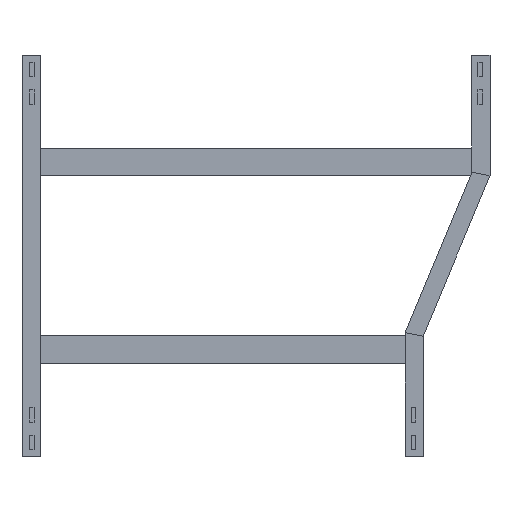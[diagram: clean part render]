
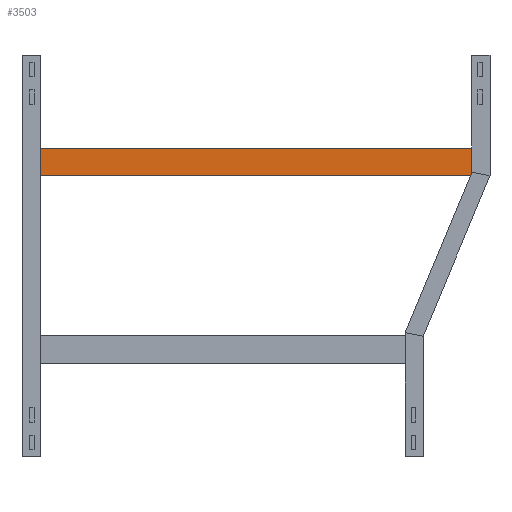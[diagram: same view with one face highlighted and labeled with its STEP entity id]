
A CAD part, front view. The second image highlights one B-rep face of the part: STEP entity #3503.
In plain terms, the highlighted planar face has unit normal (0, -1, 0).
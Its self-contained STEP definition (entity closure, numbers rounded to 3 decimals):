
#8 = VERTEX_POINT ( 'NONE', #1386 ) ;
#103 = CARTESIAN_POINT ( 'NONE',  ( 348., 0., 20.25 ) ) ;
#170 = CARTESIAN_POINT ( 'NONE',  ( 348., 0., -20.25 ) ) ;
#397 = DIRECTION ( 'NONE',  ( -1., 0., 0. ) ) ;
#414 = LINE ( 'NONE', #3194, #2609 ) ;
#463 = LINE ( 'NONE', #170, #2269 ) ;
#713 = LINE ( 'NONE', #1280, #2084 ) ;
#719 = CARTESIAN_POINT ( 'NONE',  ( 348., 0., 20.25 ) ) ;
#947 = ORIENTED_EDGE ( 'NONE', *, *, #2961, .F. ) ;
#959 = EDGE_CURVE ( 'NONE', #1773, #3397, #3225, .T. ) ;
#1002 = DIRECTION ( 'NONE',  ( -1., 0., 0. ) ) ;
#1063 = DIRECTION ( 'NONE',  ( 0., 1., 0. ) ) ;
#1174 = ORIENTED_EDGE ( 'NONE', *, *, #2032, .F. ) ;
#1255 = EDGE_LOOP ( 'NONE', ( #1872, #947, #1174, #2965 ) ) ;
#1280 = CARTESIAN_POINT ( 'NONE',  ( 348., 0., 20.25 ) ) ;
#1339 = FACE_OUTER_BOUND ( 'NONE', #1255, .T. ) ;
#1386 = CARTESIAN_POINT ( 'NONE',  ( -348., 0., -20.25 ) ) ;
#1512 = AXIS2_PLACEMENT_3D ( 'NONE', #3565, #1063, #1946 ) ;
#1773 = VERTEX_POINT ( 'NONE', #719 ) ;
#1872 = ORIENTED_EDGE ( 'NONE', *, *, #1993, .T. ) ;
#1946 = DIRECTION ( 'NONE',  ( 0., 0., 1. ) ) ;
#1993 = EDGE_CURVE ( 'NONE', #3397, #8, #414, .T. ) ;
#2032 = EDGE_CURVE ( 'NONE', #1773, #3309, #713, .T. ) ;
#2055 = CARTESIAN_POINT ( 'NONE',  ( 348., 0., -20.25 ) ) ;
#2084 = VECTOR ( 'NONE', #2630, 1000. ) ;
#2105 = CARTESIAN_POINT ( 'NONE',  ( -348., 0., 20.25 ) ) ;
#2269 = VECTOR ( 'NONE', #1002, 1000. ) ;
#2448 = PLANE ( 'NONE',  #1512 ) ;
#2609 = VECTOR ( 'NONE', #2645, 1000. ) ;
#2630 = DIRECTION ( 'NONE',  ( 0., 0., -1. ) ) ;
#2645 = DIRECTION ( 'NONE',  ( 0., 0., -1. ) ) ;
#2961 = EDGE_CURVE ( 'NONE', #3309, #8, #463, .T. ) ;
#2965 = ORIENTED_EDGE ( 'NONE', *, *, #959, .T. ) ;
#3194 = CARTESIAN_POINT ( 'NONE',  ( -348., 0., 20.25 ) ) ;
#3225 = LINE ( 'NONE', #103, #3536 ) ;
#3309 = VERTEX_POINT ( 'NONE', #2055 ) ;
#3397 = VERTEX_POINT ( 'NONE', #2105 ) ;
#3503 = ADVANCED_FACE ( 'NONE', ( #1339 ), #2448, .F. ) ;
#3536 = VECTOR ( 'NONE', #397, 1000. ) ;
#3565 = CARTESIAN_POINT ( 'NONE',  ( 348., 0., 20.25 ) ) ;
